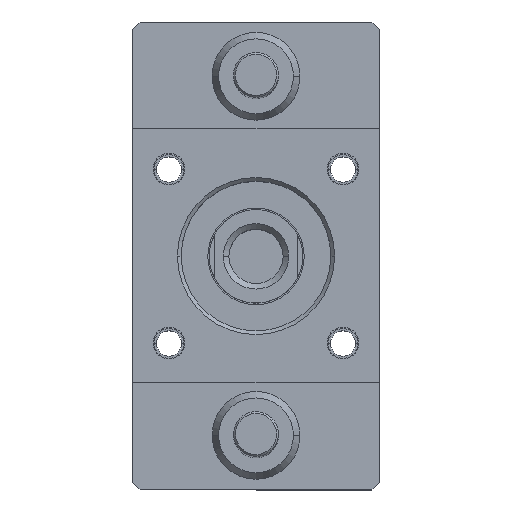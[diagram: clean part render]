
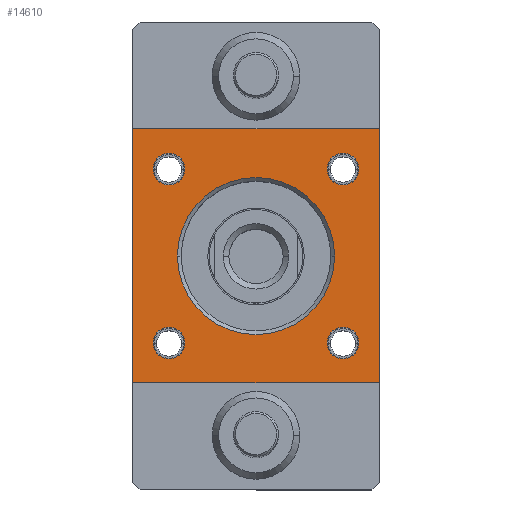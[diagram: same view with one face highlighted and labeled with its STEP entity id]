
A CAD part, top view. The second image highlights one B-rep face of the part: STEP entity #14610.
In plain terms, the highlighted planar face has unit normal (0, 0, 1).
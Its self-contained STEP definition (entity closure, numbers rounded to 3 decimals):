
#9548 = VERTEX_POINT ( 'NONE', #22221 ) ;
#9550 = EDGE_CURVE ( 'NONE', #9551, #9548, #22219, .T. ) ;
#9551 = VERTEX_POINT ( 'NONE', #22214 ) ;
#13935 = EDGE_CURVE ( 'NONE', #13936, #13937, #30857, .T. ) ;
#13936 = VERTEX_POINT ( 'NONE', #30848 ) ;
#13937 = VERTEX_POINT ( 'NONE', #30847 ) ;
#13984 = EDGE_CURVE ( 'NONE', #13985, #13986, #30950, .T. ) ;
#13985 = VERTEX_POINT ( 'NONE', #30946 ) ;
#13986 = VERTEX_POINT ( 'NONE', #30945 ) ;
#14000 = EDGE_CURVE ( 'NONE', #14001, #14002, #30980, .T. ) ;
#14001 = VERTEX_POINT ( 'NONE', #30976 ) ;
#14002 = VERTEX_POINT ( 'NONE', #30975 ) ;
#14026 = EDGE_CURVE ( 'NONE', #14002, #14001, #31062, .T. ) ;
#14034 = EDGE_CURVE ( 'NONE', #13937, #13936, #31104, .T. ) ;
#14036 = EDGE_CURVE ( 'NONE', #14050, #14049, #31099, .T. ) ;
#14044 = EDGE_CURVE ( 'NONE', #13986, #13985, #31082, .T. ) ;
#14048 = EDGE_CURVE ( 'NONE', #14049, #14050, #31078, .T. ) ;
#14049 = VERTEX_POINT ( 'NONE', #31136 ) ;
#14050 = VERTEX_POINT ( 'NONE', #31135 ) ;
#14098 = VERTEX_POINT ( 'NONE', #31178 ) ;
#14100 = EDGE_CURVE ( 'NONE', #14098, #14159, #31177, .T. ) ;
#14159 = VERTEX_POINT ( 'NONE', #31270 ) ;
#14523 = VERTEX_POINT ( 'NONE', #31951 ) ;
#14525 = EDGE_CURVE ( 'NONE', #14526, #14523, #31950, .T. ) ;
#14526 = VERTEX_POINT ( 'NONE', #31946 ) ;
#14590 = EDGE_LOOP ( 'NONE', ( #14591, #14592 ) ) ;
#14591 = ORIENTED_EDGE ( 'NONE', *, *, #14000, .F. ) ;
#14592 = ORIENTED_EDGE ( 'NONE', *, *, #14026, .F. ) ;
#14593 = EDGE_LOOP ( 'NONE', ( #14594, #14595 ) ) ;
#14594 = ORIENTED_EDGE ( 'NONE', *, *, #13935, .F. ) ;
#14595 = ORIENTED_EDGE ( 'NONE', *, *, #14034, .F. ) ;
#14596 = EDGE_LOOP ( 'NONE', ( #14597, #14598 ) ) ;
#14597 = ORIENTED_EDGE ( 'NONE', *, *, #9550, .T. ) ;
#14598 = ORIENTED_EDGE ( 'NONE', *, *, #14599, .T. ) ;
#14599 = EDGE_CURVE ( 'NONE', #9548, #9551, #32050, .T. ) ;
#14601 = EDGE_LOOP ( 'NONE', ( #14602, #14603, #14658, #14659 ) ) ;
#14602 = ORIENTED_EDGE ( 'NONE', *, *, #14525, .T. ) ;
#14603 = ORIENTED_EDGE ( 'NONE', *, *, #14609, .F. ) ;
#14609 = EDGE_CURVE ( 'NONE', #14159, #14523, #32043, .T. ) ;
#14610 = ADVANCED_FACE ( 'NONE', ( #32039, #32038, #32037, #32036, #32035, #32034 ), #32032, .F. ) ;
#14611 = EDGE_LOOP ( 'NONE', ( #14612, #14613 ) ) ;
#14612 = ORIENTED_EDGE ( 'NONE', *, *, #14048, .F. ) ;
#14613 = ORIENTED_EDGE ( 'NONE', *, *, #14036, .F. ) ;
#14614 = EDGE_LOOP ( 'NONE', ( #14615, #14616 ) ) ;
#14615 = ORIENTED_EDGE ( 'NONE', *, *, #13984, .F. ) ;
#14616 = ORIENTED_EDGE ( 'NONE', *, *, #14044, .F. ) ;
#14658 = ORIENTED_EDGE ( 'NONE', *, *, #14100, .F. ) ;
#14659 = ORIENTED_EDGE ( 'NONE', *, *, #14660, .T. ) ;
#14660 = EDGE_CURVE ( 'NONE', #14098, #14526, #32051, .T. ) ;
#22214 = CARTESIAN_POINT ( 'NONE',  ( 21., 0., 25. ) ) ;
#22215 = DIRECTION ( 'NONE',  ( -1., 0., 0. ) ) ;
#22216 = DIRECTION ( 'NONE',  ( 0., 0., -1. ) ) ;
#22217 = CARTESIAN_POINT ( 'NONE',  ( 0., 0., 25. ) ) ;
#22218 = AXIS2_PLACEMENT_3D ( 'NONE', #22217, #22216, #22215 ) ;
#22219 = CIRCLE ( 'NONE', #22218, 21. ) ;
#22221 = CARTESIAN_POINT ( 'NONE',  ( -21., 0., 25. ) ) ;
#30847 = CARTESIAN_POINT ( 'NONE',  ( 27.5, 23.25, 25. ) ) ;
#30848 = CARTESIAN_POINT ( 'NONE',  ( 19., 23.25, 25. ) ) ;
#30849 = DIRECTION ( 'NONE',  ( -1., 0., 0. ) ) ;
#30850 = DIRECTION ( 'NONE',  ( 0., 0., 1. ) ) ;
#30851 = CARTESIAN_POINT ( 'NONE',  ( 23.25, 23.25, 25. ) ) ;
#30852 = AXIS2_PLACEMENT_3D ( 'NONE', #30851, #30850, #30849 ) ;
#30857 = CIRCLE ( 'NONE', #30852, 4.25 ) ;
#30945 = CARTESIAN_POINT ( 'NONE',  ( -19., -23.25, 25. ) ) ;
#30946 = CARTESIAN_POINT ( 'NONE',  ( -27.5, -23.25, 25. ) ) ;
#30947 = DIRECTION ( 'NONE',  ( -1., 0., 0. ) ) ;
#30948 = DIRECTION ( 'NONE',  ( 0., 0., 1. ) ) ;
#30949 = AXIS2_PLACEMENT_3D ( 'NONE', #30956, #30948, #30947 ) ;
#30950 = CIRCLE ( 'NONE', #30949, 4.25 ) ;
#30956 = CARTESIAN_POINT ( 'NONE',  ( -23.25, -23.25, 25. ) ) ;
#30975 = CARTESIAN_POINT ( 'NONE',  ( -19., 23.25, 25. ) ) ;
#30976 = CARTESIAN_POINT ( 'NONE',  ( -27.5, 23.25, 25. ) ) ;
#30977 = DIRECTION ( 'NONE',  ( -1., 0., 0. ) ) ;
#30978 = DIRECTION ( 'NONE',  ( 0., 0., 1. ) ) ;
#30979 = AXIS2_PLACEMENT_3D ( 'NONE', #30984, #30978, #30977 ) ;
#30980 = CIRCLE ( 'NONE', #30979, 4.25 ) ;
#30984 = CARTESIAN_POINT ( 'NONE',  ( -23.25, 23.25, 25. ) ) ;
#31054 = DIRECTION ( 'NONE',  ( -1., 0., 0. ) ) ;
#31055 = DIRECTION ( 'NONE',  ( 0., 0., 1. ) ) ;
#31056 = CARTESIAN_POINT ( 'NONE',  ( -23.25, 23.25, 25. ) ) ;
#31057 = AXIS2_PLACEMENT_3D ( 'NONE', #31056, #31055, #31054 ) ;
#31062 = CIRCLE ( 'NONE', #31057, 4.25 ) ;
#31074 = DIRECTION ( 'NONE',  ( -1., 0., 0. ) ) ;
#31075 = DIRECTION ( 'NONE',  ( 0., 0., 1. ) ) ;
#31076 = CARTESIAN_POINT ( 'NONE',  ( 23.25, -23.25, 25. ) ) ;
#31077 = AXIS2_PLACEMENT_3D ( 'NONE', #31076, #31075, #31074 ) ;
#31078 = CIRCLE ( 'NONE', #31077, 4.25 ) ;
#31079 = DIRECTION ( 'NONE',  ( -1., 0., 0. ) ) ;
#31080 = DIRECTION ( 'NONE',  ( 0., 0., 1. ) ) ;
#31081 = AXIS2_PLACEMENT_3D ( 'NONE', #31087, #31080, #31079 ) ;
#31082 = CIRCLE ( 'NONE', #31081, 4.25 ) ;
#31087 = CARTESIAN_POINT ( 'NONE',  ( -23.25, -23.25, 25. ) ) ;
#31095 = DIRECTION ( 'NONE',  ( -1., 0., 0. ) ) ;
#31096 = DIRECTION ( 'NONE',  ( 0., 0., 1. ) ) ;
#31097 = CARTESIAN_POINT ( 'NONE',  ( 23.25, -23.25, 25. ) ) ;
#31098 = AXIS2_PLACEMENT_3D ( 'NONE', #31097, #31096, #31095 ) ;
#31099 = CIRCLE ( 'NONE', #31098, 4.25 ) ;
#31100 = DIRECTION ( 'NONE',  ( -1., 0., 0. ) ) ;
#31101 = DIRECTION ( 'NONE',  ( 0., 0., 1. ) ) ;
#31102 = CARTESIAN_POINT ( 'NONE',  ( 23.25, 23.25, 25. ) ) ;
#31103 = AXIS2_PLACEMENT_3D ( 'NONE', #31102, #31101, #31100 ) ;
#31104 = CIRCLE ( 'NONE', #31103, 4.25 ) ;
#31135 = CARTESIAN_POINT ( 'NONE',  ( 27.5, -23.25, 25. ) ) ;
#31136 = CARTESIAN_POINT ( 'NONE',  ( 19., -23.25, 25. ) ) ;
#31174 = DIRECTION ( 'NONE',  ( 0., 1., 0. ) ) ;
#31175 = VECTOR ( 'NONE', #31174, 1000. ) ;
#31176 = CARTESIAN_POINT ( 'NONE',  ( -33., -34., 25. ) ) ;
#31177 = LINE ( 'NONE', #31176, #31175 ) ;
#31178 = CARTESIAN_POINT ( 'NONE',  ( -33., -34., 25. ) ) ;
#31270 = CARTESIAN_POINT ( 'NONE',  ( -33., 34., 25. ) ) ;
#31946 = CARTESIAN_POINT ( 'NONE',  ( 33., -34., 25. ) ) ;
#31947 = DIRECTION ( 'NONE',  ( 0., 1., 0. ) ) ;
#31948 = VECTOR ( 'NONE', #31947, 1000. ) ;
#31949 = CARTESIAN_POINT ( 'NONE',  ( 33., -34., 25. ) ) ;
#31950 = LINE ( 'NONE', #31949, #31948 ) ;
#31951 = CARTESIAN_POINT ( 'NONE',  ( 33., 34., 25. ) ) ;
#32028 = DIRECTION ( 'NONE',  ( -1., 0., 0. ) ) ;
#32029 = DIRECTION ( 'NONE',  ( 0., 0., -1. ) ) ;
#32030 = CARTESIAN_POINT ( 'NONE',  ( -33., -34., 25. ) ) ;
#32031 = AXIS2_PLACEMENT_3D ( 'NONE', #32030, #32029, #32028 ) ;
#32032 = PLANE ( 'NONE',  #32031 ) ;
#32034 = FACE_OUTER_BOUND ( 'NONE', #14601, .T. ) ;
#32035 = FACE_BOUND ( 'NONE', #14596, .T. ) ;
#32036 = FACE_BOUND ( 'NONE', #14593, .T. ) ;
#32037 = FACE_BOUND ( 'NONE', #14590, .T. ) ;
#32038 = FACE_BOUND ( 'NONE', #14614, .T. ) ;
#32039 = FACE_BOUND ( 'NONE', #14611, .T. ) ;
#32040 = DIRECTION ( 'NONE',  ( 1., 0., 0. ) ) ;
#32041 = VECTOR ( 'NONE', #32040, 1000. ) ;
#32042 = CARTESIAN_POINT ( 'NONE',  ( -33., 34., 25. ) ) ;
#32043 = LINE ( 'NONE', #32042, #32041 ) ;
#32046 = DIRECTION ( 'NONE',  ( -1., 0., 0. ) ) ;
#32047 = DIRECTION ( 'NONE',  ( 0., 0., -1. ) ) ;
#32048 = CARTESIAN_POINT ( 'NONE',  ( 0., 0., 25. ) ) ;
#32049 = AXIS2_PLACEMENT_3D ( 'NONE', #32048, #32047, #32046 ) ;
#32050 = CIRCLE ( 'NONE', #32049, 21. ) ;
#32051 = LINE ( 'NONE', #32120, #32119 ) ;
#32118 = DIRECTION ( 'NONE',  ( 1., 0., 0. ) ) ;
#32119 = VECTOR ( 'NONE', #32118, 1000. ) ;
#32120 = CARTESIAN_POINT ( 'NONE',  ( -33., -34., 25. ) ) ;
